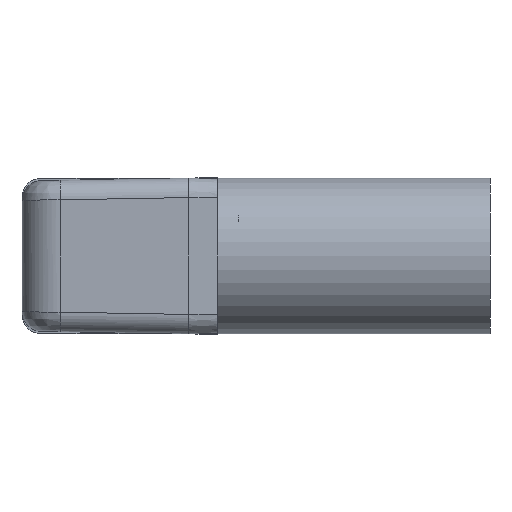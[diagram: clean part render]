
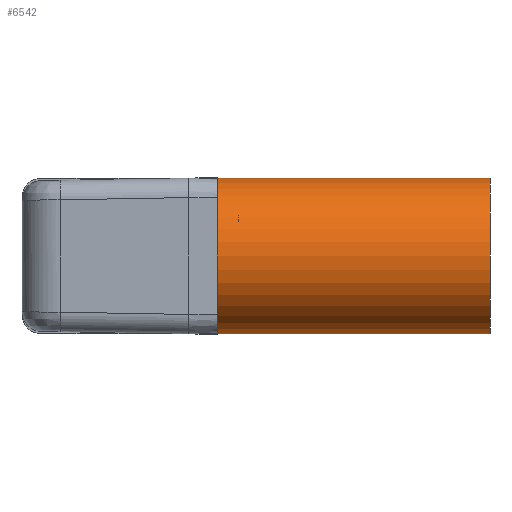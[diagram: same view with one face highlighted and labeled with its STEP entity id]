
A CAD part, front view. The second image highlights one B-rep face of the part: STEP entity #6542.
In plain terms, the highlighted cylindrical face has radius 6 mm (diameter 12 mm), a partial arc.
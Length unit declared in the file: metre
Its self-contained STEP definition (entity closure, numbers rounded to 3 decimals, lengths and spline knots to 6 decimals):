
#2274 = AXIS2_PLACEMENT_3D ( 'NONE', #9971, #9943, #9920 ) ;
#2661 = EDGE_LOOP ( 'NONE', ( #6242, #9169, #6846, #9289 ) ) ;
#2713 = CARTESIAN_POINT ( 'NONE',  ( 0., 0., -0.006 ) ) ;
#2716 = VERTEX_POINT ( 'NONE', #7679 ) ;
#2852 = VECTOR ( 'NONE', #5882, 1. ) ;
#3079 = EDGE_CURVE ( 'NONE', #6353, #6832, #11667, .T. ) ;
#3882 = VECTOR ( 'NONE', #6807, 1. ) ;
#4547 = CIRCLE ( 'NONE', #2274, 0.006 ) ;
#4605 = DIRECTION ( 'NONE',  ( -1., 0., 0. ) ) ;
#4648 = CARTESIAN_POINT ( 'NONE',  ( -0.007, 0., 0. ) ) ;
#4651 = DIRECTION ( 'NONE',  ( 0., 0., 1. ) ) ;
#5620 = LINE ( 'NONE', #6978, #3882 ) ;
#5882 = DIRECTION ( 'NONE',  ( -1., 0., 0. ) ) ;
#5900 = CARTESIAN_POINT ( 'NONE',  ( -0.007, 0., -0.006 ) ) ;
#6242 = ORIENTED_EDGE ( 'NONE', *, *, #6420, .F. ) ;
#6353 = VERTEX_POINT ( 'NONE', #6758 ) ;
#6420 = EDGE_CURVE ( 'NONE', #2716, #6832, #13735, .T. ) ;
#6542 = ADVANCED_FACE ( 'NONE', ( #11365 ), #8173, .T. ) ;
#6758 = CARTESIAN_POINT ( 'NONE',  ( 0., 0., 0.006 ) ) ;
#6807 = DIRECTION ( 'NONE',  ( -1., 0., 0. ) ) ;
#6832 = VERTEX_POINT ( 'NONE', #2713 ) ;
#6846 = ORIENTED_EDGE ( 'NONE', *, *, #10181, .T. ) ;
#6978 = CARTESIAN_POINT ( 'NONE',  ( -0.007, 0., 0.006 ) ) ;
#7679 = CARTESIAN_POINT ( 'NONE',  ( 0.021, 0., -0.006 ) ) ;
#8173 = CYLINDRICAL_SURFACE ( 'NONE', #8293, 0.006 ) ;
#8293 = AXIS2_PLACEMENT_3D ( 'NONE', #4648, #4605, #4651 ) ;
#9169 = ORIENTED_EDGE ( 'NONE', *, *, #12748, .T. ) ;
#9289 = ORIENTED_EDGE ( 'NONE', *, *, #3079, .T. ) ;
#9662 = AXIS2_PLACEMENT_3D ( 'NONE', #14679, #14658, #14634 ) ;
#9920 = DIRECTION ( 'NONE',  ( 0., 0., 1. ) ) ;
#9943 = DIRECTION ( 'NONE',  ( -1., 0., 0. ) ) ;
#9971 = CARTESIAN_POINT ( 'NONE',  ( 0.021, 0., 0. ) ) ;
#10181 = EDGE_CURVE ( 'NONE', #12405, #6353, #5620, .T. ) ;
#11365 = FACE_OUTER_BOUND ( 'NONE', #2661, .T. ) ;
#11487 = CARTESIAN_POINT ( 'NONE',  ( 0.021, 0., 0.006 ) ) ;
#11667 = CIRCLE ( 'NONE', #9662, 0.006 ) ;
#12405 = VERTEX_POINT ( 'NONE', #11487 ) ;
#12748 = EDGE_CURVE ( 'NONE', #2716, #12405, #4547, .T. ) ;
#13735 = LINE ( 'NONE', #5900, #2852 ) ;
#14634 = DIRECTION ( 'NONE',  ( 0., 0., 1. ) ) ;
#14658 = DIRECTION ( 'NONE',  ( 1., 0., 0. ) ) ;
#14679 = CARTESIAN_POINT ( 'NONE',  ( 0., 0., 0. ) ) ;
